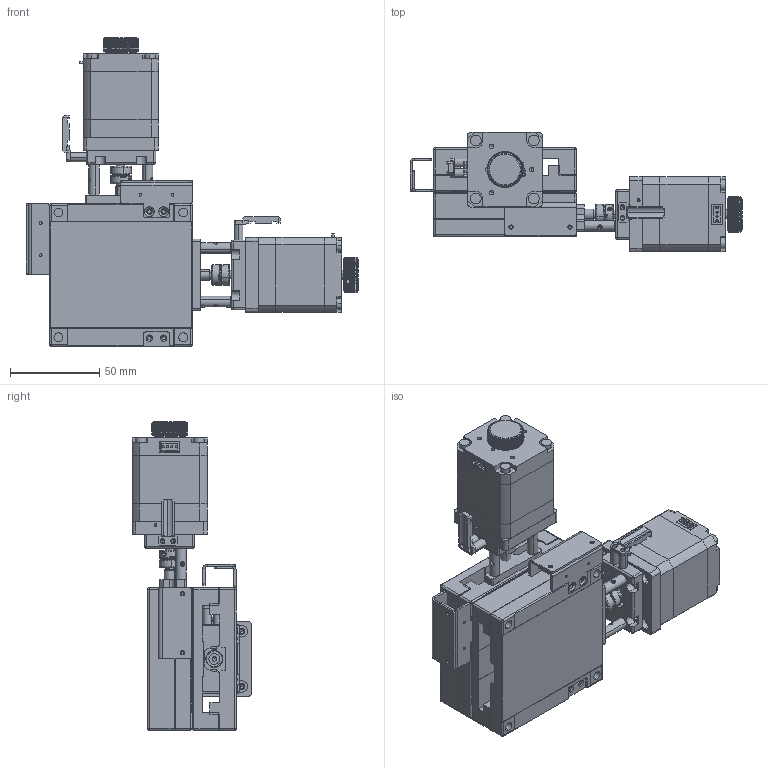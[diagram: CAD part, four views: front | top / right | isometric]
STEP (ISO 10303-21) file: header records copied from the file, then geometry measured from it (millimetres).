
FILE_DESCRIPTION (( 'STEP AP214' ), '1' );
FILE_NAME ('TYS8015E-L1-M42L.STEP', '2025-01-03T09:17:08', ( '' ), ( '' ), 'SwSTEP 2.0', 'SolidWorks 2020', '' );
FILE_SCHEMA (( 'AUTOMOTIVE_DESIGN' ));
Length unit declared in the file: millimetre
Products named in the file (2): TXS8015E-L1-M42L; TYS8015E-L1-M42L
Assembly tree (2 placements, depth 2):
  TYS8015E-L1-M42L
    TXS8015E-L1-M42L  x2
Bounding box: 186.2 x 67 x 173 mm (x, y, z)
Volume: 492609.9 mm3; surface area: 172696.1 mm2
Topology: 82 solids, 82 shells, 4148 faces, 11026 edges, 7032 vertices
Faces by surface type: plane 1716, cylinder 1308, torus 744, cone 344, sphere 24, bspline 12
Entity records: 94947 total; most frequent: CARTESIAN_POINT 21761, ORIENTED_EDGE 10862, DIRECTION 9886, EDGE_CURVE 5431, AXIS2_PLACEMENT_3D 3872, VERTEX_POINT 3516, EDGE_LOOP 2291, LINE 2142
